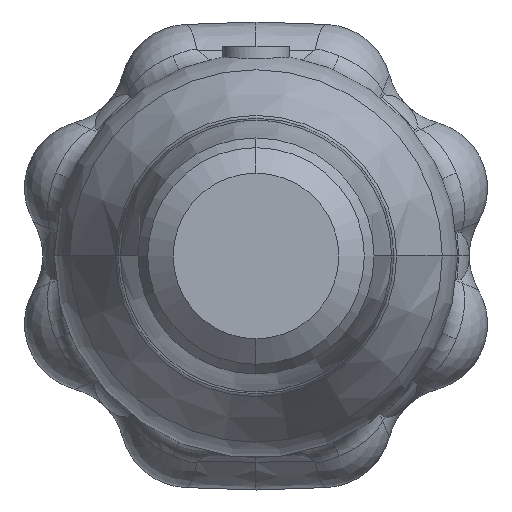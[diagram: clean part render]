
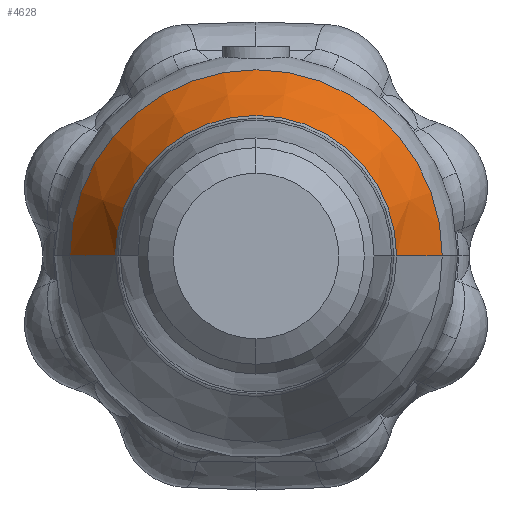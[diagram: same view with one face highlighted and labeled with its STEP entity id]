
A CAD part, left-side view. The second image highlights one B-rep face of the part: STEP entity #4628.
In plain terms, the highlighted conical face has half-angle 27.998 degrees and reference radius 78.364 mm.
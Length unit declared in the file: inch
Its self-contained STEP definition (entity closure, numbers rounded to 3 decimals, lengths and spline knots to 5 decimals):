
#94 = CARTESIAN_POINT ( 'NONE',  ( 1.03286, 0., 0. ) ) ;
#582 = DIRECTION ( 'NONE',  ( 0., 1., 0. ) ) ;
#598 = EDGE_CURVE ( 'NONE', #11958, #10995, #11561, .T. ) ;
#603 = ORIENTED_EDGE ( 'NONE', *, *, #9134, .F. ) ;
#1150 = DIRECTION ( 'NONE',  ( 0., -1., 0. ) ) ;
#1223 = DIRECTION ( 'NONE',  ( 0.883, -0.469, 0. ) ) ;
#2016 = AXIS2_PLACEMENT_3D ( 'NONE', #2638, #9740, #3683 ) ;
#2638 = CARTESIAN_POINT ( 'NONE',  ( -0.39138, 0., 0. ) ) ;
#2654 = CARTESIAN_POINT ( 'NONE',  ( 1.03286, 0., 0. ) ) ;
#3340 = AXIS2_PLACEMENT_3D ( 'NONE', #2654, #3705, #582 ) ;
#3423 = CONICAL_SURFACE ( 'NONE', #3340, 3.08519, 0.489 ) ;
#3683 = DIRECTION ( 'NONE',  ( 0., -1., 0. ) ) ;
#3705 = DIRECTION ( 'NONE',  ( 1., 0., 0. ) ) ;
#4207 = ORIENTED_EDGE ( 'NONE', *, *, #9667, .F. ) ;
#4628 = ADVANCED_FACE ( 'NONE', ( #6411 ), #3423, .T. ) ;
#4967 = LINE ( 'NONE', #11828, #12795 ) ;
#5142 = EDGE_LOOP ( 'NONE', ( #4207, #10509, #9710, #603 ) ) ;
#5206 = VERTEX_POINT ( 'NONE', #7397 ) ;
#5297 = CARTESIAN_POINT ( 'NONE',  ( 1.03286, -3.08519, 0. ) ) ;
#5718 = DIRECTION ( 'NONE',  ( 0.883, 0.469, 0. ) ) ;
#6411 = FACE_OUTER_BOUND ( 'NONE', #5142, .T. ) ;
#7224 = DIRECTION ( 'NONE',  ( -1., 0., 0. ) ) ;
#7397 = CARTESIAN_POINT ( 'NONE',  ( 1.03286, 3.08519, 0. ) ) ;
#8226 = CARTESIAN_POINT ( 'NONE',  ( -0.39138, -2.32798, 0. ) ) ;
#8416 = CIRCLE ( 'NONE', #12901, 3.08519 ) ;
#8834 = VECTOR ( 'NONE', #1223, 39.37008 ) ;
#9134 = EDGE_CURVE ( 'NONE', #12550, #5206, #4967, .T. ) ;
#9667 = EDGE_CURVE ( 'NONE', #11958, #12550, #11661, .T. ) ;
#9710 = ORIENTED_EDGE ( 'NONE', *, *, #13077, .T. ) ;
#9740 = DIRECTION ( 'NONE',  ( -1., 0., 0. ) ) ;
#10283 = CARTESIAN_POINT ( 'NONE',  ( 1.03286, -3.08519, 0. ) ) ;
#10509 = ORIENTED_EDGE ( 'NONE', *, *, #598, .T. ) ;
#10995 = VERTEX_POINT ( 'NONE', #10283 ) ;
#11561 = LINE ( 'NONE', #5297, #8834 ) ;
#11661 = CIRCLE ( 'NONE', #2016, 2.32798 ) ;
#11828 = CARTESIAN_POINT ( 'NONE',  ( 1.03286, 3.08519, 0. ) ) ;
#11958 = VERTEX_POINT ( 'NONE', #8226 ) ;
#12213 = CARTESIAN_POINT ( 'NONE',  ( -0.39138, 2.32798, 0. ) ) ;
#12550 = VERTEX_POINT ( 'NONE', #12213 ) ;
#12795 = VECTOR ( 'NONE', #5718, 39.37008 ) ;
#12901 = AXIS2_PLACEMENT_3D ( 'NONE', #94, #7224, #1150 ) ;
#13077 = EDGE_CURVE ( 'NONE', #10995, #5206, #8416, .T. ) ;
